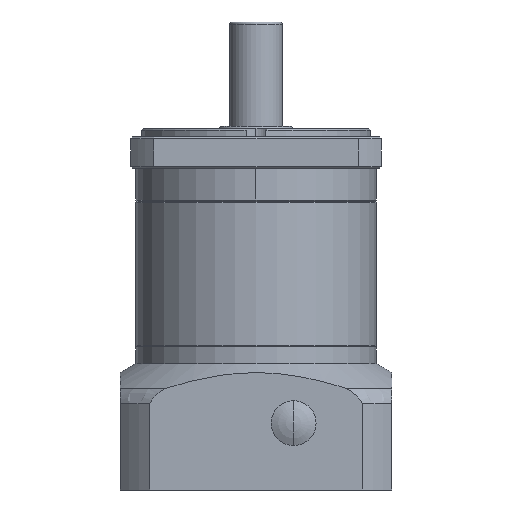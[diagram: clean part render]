
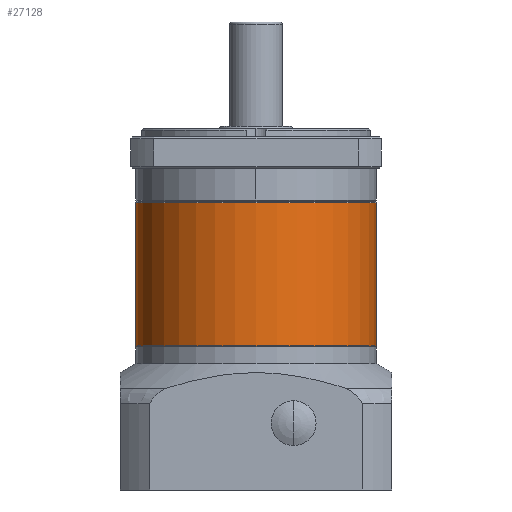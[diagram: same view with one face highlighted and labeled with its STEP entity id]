
A CAD part, front view. The second image highlights one B-rep face of the part: STEP entity #27128.
In plain terms, the highlighted cylindrical face has radius 57.5 mm (diameter 115 mm), a partial arc.
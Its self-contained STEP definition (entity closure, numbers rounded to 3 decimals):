
#58 = CARTESIAN_POINT ( 'NONE',  ( 0., 0., 34.25 ) ) ;
#102 = DIRECTION ( 'NONE',  ( -1., 0., 0. ) ) ;
#583 = EDGE_CURVE ( 'NONE', #9559, #6691, #20145, .T. ) ;
#589 = EDGE_CURVE ( 'NONE', #7371, #7035, #20052, .T. ) ;
#1888 = EDGE_CURVE ( 'NONE', #7371, #9559, #13584, .T. ) ;
#1926 = EDGE_CURVE ( 'NONE', #7035, #6691, #13399, .T. ) ;
#3897 = AXIS2_PLACEMENT_3D ( 'NONE', #58, #29921, #102 ) ;
#4735 = AXIS2_PLACEMENT_3D ( 'NONE', #25181, #25153, #23292 ) ;
#4897 = AXIS2_PLACEMENT_3D ( 'NONE', #14307, #14457, #14277 ) ;
#6691 = VERTEX_POINT ( 'NONE', #22937 ) ;
#7035 = VERTEX_POINT ( 'NONE', #8717 ) ;
#7371 = VERTEX_POINT ( 'NONE', #25432 ) ;
#8717 = CARTESIAN_POINT ( 'NONE',  ( -57.5, 0., -34.25 ) ) ;
#9505 = ORIENTED_EDGE ( 'NONE', *, *, #1926, .T. ) ;
#9559 = VERTEX_POINT ( 'NONE', #25945 ) ;
#13399 = CIRCLE ( 'NONE', #4735, 57.5 ) ;
#13584 = CIRCLE ( 'NONE', #3897, 57.5 ) ;
#14277 = DIRECTION ( 'NONE',  ( -1., 0., 0. ) ) ;
#14307 = CARTESIAN_POINT ( 'NONE',  ( 0., 0., 34.25 ) ) ;
#14457 = DIRECTION ( 'NONE',  ( 0., 0., -1. ) ) ;
#15522 = CYLINDRICAL_SURFACE ( 'NONE', #4897, 57.5 ) ;
#16371 = ORIENTED_EDGE ( 'NONE', *, *, #1888, .F. ) ;
#16517 = FACE_OUTER_BOUND ( 'NONE', #24820, .T. ) ;
#17368 = CARTESIAN_POINT ( 'NONE',  ( 57.5, 0., 34.25 ) ) ;
#17426 = DIRECTION ( 'NONE',  ( 0., 0., -1. ) ) ;
#18828 = CARTESIAN_POINT ( 'NONE',  ( -57.5, 0., 34.25 ) ) ;
#19126 = DIRECTION ( 'NONE',  ( 0., 0., -1. ) ) ;
#20052 = LINE ( 'NONE', #18828, #20243 ) ;
#20078 = VECTOR ( 'NONE', #17426, 1000. ) ;
#20145 = LINE ( 'NONE', #17368, #20078 ) ;
#20243 = VECTOR ( 'NONE', #19126, 1000. ) ;
#22937 = CARTESIAN_POINT ( 'NONE',  ( 57.5, 0., -34.25 ) ) ;
#23292 = DIRECTION ( 'NONE',  ( 1., 0., 0. ) ) ;
#23603 = ORIENTED_EDGE ( 'NONE', *, *, #589, .T. ) ;
#24468 = ORIENTED_EDGE ( 'NONE', *, *, #583, .F. ) ;
#24820 = EDGE_LOOP ( 'NONE', ( #24468, #16371, #23603, #9505 ) ) ;
#25153 = DIRECTION ( 'NONE',  ( 0., 0., 1. ) ) ;
#25181 = CARTESIAN_POINT ( 'NONE',  ( 0., 0., -34.25 ) ) ;
#25432 = CARTESIAN_POINT ( 'NONE',  ( -57.5, 0., 34.25 ) ) ;
#25945 = CARTESIAN_POINT ( 'NONE',  ( 57.5, 0., 34.25 ) ) ;
#27128 = ADVANCED_FACE ( 'NONE', ( #16517 ), #15522, .T. ) ;
#29921 = DIRECTION ( 'NONE',  ( 0., 0., 1. ) ) ;
